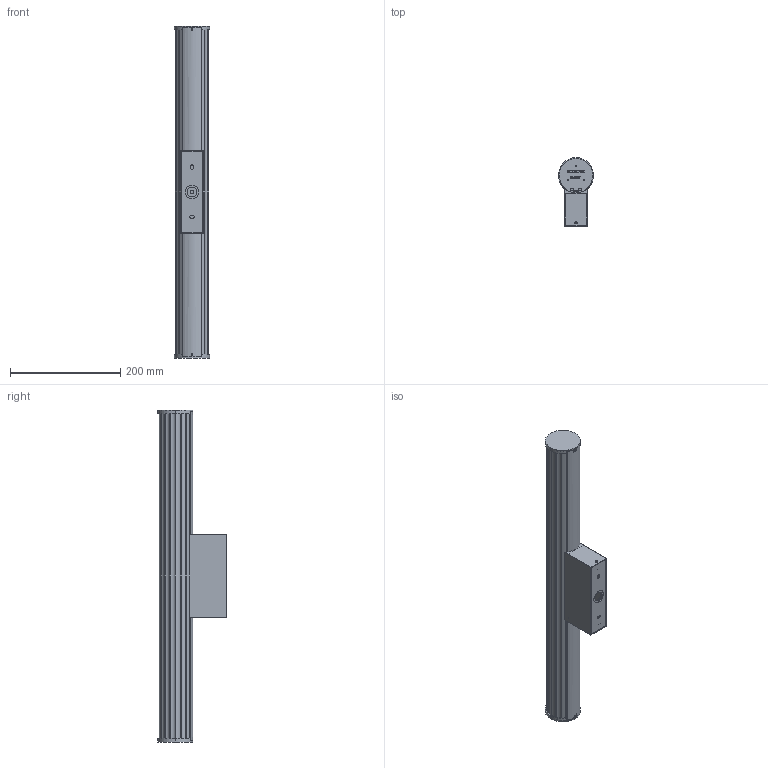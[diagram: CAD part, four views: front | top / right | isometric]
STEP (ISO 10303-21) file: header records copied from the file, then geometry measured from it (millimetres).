
FILE_DESCRIPTION (( 'STEP AP214' ), '1' );
FILE_NAME ('SAFE-A3991071.STEP', '2026-01-15T07:56:25', ( '' ), ( '' ), 'SwSTEP 2.0', 'SolidWorks 2025', '' );
FILE_SCHEMA (( 'AUTOMOTIVE_DESIGN' ));
Length unit declared in the file: millimetre
Products named in the file (7): W2040B____-0; SAFE-A3991071; W2040B________; W2040B____; W2040B____-1; W2040________; W2040____
Assembly tree (8 placements, depth 2):
  SAFE-A3991071
    W2040B____
    W2040B________
    W2040________  x2
    W2040____  x2
    W2040B____-0
    W2040B____-1
Bounding box: 63.5 x 123.5 x 601 mm (x, y, z)
Volume: 359333.4 mm3; surface area: 527166.8 mm2
Topology: 8 solids, 8 shells, 808 faces, 2157 edges, 1394 vertices
Faces by surface type: plane 380, cylinder 240, bspline 136, cone 38, torus 14
Entity records: 23035 total; most frequent: CARTESIAN_POINT 10089, ORIENTED_EDGE 2748, DIRECTION 2489, EDGE_CURVE 1374, VERTEX_POINT 902, AXIS2_PLACEMENT_3D 834, LINE 821, VECTOR 821
